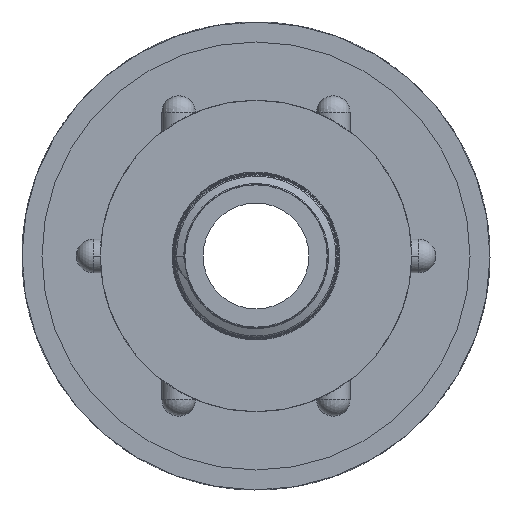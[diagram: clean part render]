
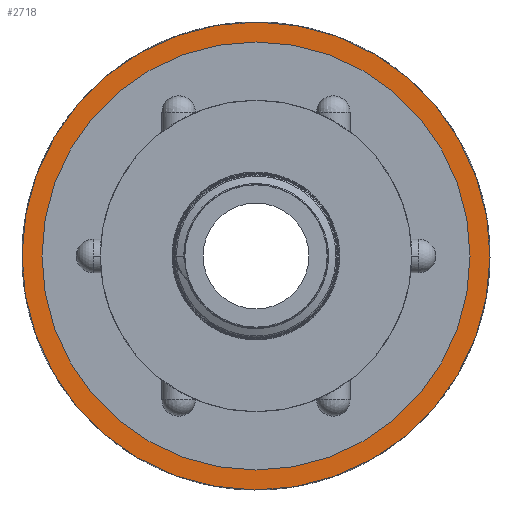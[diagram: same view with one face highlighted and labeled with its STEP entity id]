
A CAD part, left-side view. The second image highlights one B-rep face of the part: STEP entity #2718.
In plain terms, the highlighted planar face has unit normal (-1, 0, 0).
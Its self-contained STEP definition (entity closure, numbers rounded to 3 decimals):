
#722 = CARTESIAN_POINT ( 'NONE',  ( 0., 0., -25. ) ) ;
#723 = CARTESIAN_POINT ( 'NONE',  ( 0., 0., 25. ) ) ;
#732 = CARTESIAN_POINT ( 'NONE',  ( 0., 0., 29.3 ) ) ;
#733 = CARTESIAN_POINT ( 'NONE',  ( 0., 0., -29.3 ) ) ;
#1876 = CIRCLE ( 'NONE', #1877, 29.3 ) ;
#1877 = AXIS2_PLACEMENT_3D ( 'NONE', #9298, #9299, #9300 ) ;
#2198 = AXIS2_PLACEMENT_3D ( 'NONE', #10810, #10822, #10823 ) ;
#2482 = EDGE_CURVE ( 'NONE', #8129, #8128, #1876, .T. ) ;
#2718 = ADVANCED_FACE ( 'NONE', ( #10818, #10819 ), #10820, .F. ) ;
#4043 = ORIENTED_EDGE ( 'NONE', *, *, #6807, .F. ) ;
#4044 = ORIENTED_EDGE ( 'NONE', *, *, #6785, .F. ) ;
#4045 = ORIENTED_EDGE ( 'NONE', *, *, #6733, .T. ) ;
#4046 = ORIENTED_EDGE ( 'NONE', *, *, #2482, .T. ) ;
#6733 = EDGE_CURVE ( 'NONE', #8128, #8129, #20503, .T. ) ;
#6785 = EDGE_CURVE ( 'NONE', #8118, #8119, #20544, .T. ) ;
#6807 = EDGE_CURVE ( 'NONE', #8119, #8118, #20553, .T. ) ;
#7961 = EDGE_LOOP ( 'NONE', ( #4045, #4046 ) ) ;
#7966 = EDGE_LOOP ( 'NONE', ( #4043, #4044 ) ) ;
#8118 = VERTEX_POINT ( 'NONE', #722 ) ;
#8119 = VERTEX_POINT ( 'NONE', #723 ) ;
#8128 = VERTEX_POINT ( 'NONE', #732 ) ;
#8129 = VERTEX_POINT ( 'NONE', #733 ) ;
#9298 = CARTESIAN_POINT ( 'NONE',  ( 0., 0., 0. ) ) ;
#9299 = DIRECTION ( 'NONE',  ( -1., 0., 0. ) ) ;
#9300 = DIRECTION ( 'NONE',  ( 0., 0., 1. ) ) ;
#10810 = CARTESIAN_POINT ( 'NONE',  ( 0., 0., -25. ) ) ;
#10818 = FACE_BOUND ( 'NONE', #7966, .T. ) ;
#10819 = FACE_OUTER_BOUND ( 'NONE', #7961, .T. ) ;
#10820 = PLANE ( 'NONE',  #2198 ) ;
#10822 = DIRECTION ( 'NONE',  ( 1., 0., 0. ) ) ;
#10823 = DIRECTION ( 'NONE',  ( 0., 0., -1. ) ) ;
#20503 = CIRCLE ( 'NONE', #20505, 29.3 ) ;
#20505 = AXIS2_PLACEMENT_3D ( 'NONE', #26312, #26313, #26314 ) ;
#20544 = CIRCLE ( 'NONE', #20545, 25. ) ;
#20545 = AXIS2_PLACEMENT_3D ( 'NONE', #26765, #26766, #26767 ) ;
#20553 = CIRCLE ( 'NONE', #20554, 25. ) ;
#20554 = AXIS2_PLACEMENT_3D ( 'NONE', #26963, #26964, #26965 ) ;
#26312 = CARTESIAN_POINT ( 'NONE',  ( 0., 0., 0. ) ) ;
#26313 = DIRECTION ( 'NONE',  ( -1., 0., 0. ) ) ;
#26314 = DIRECTION ( 'NONE',  ( 0., 0., 1. ) ) ;
#26765 = CARTESIAN_POINT ( 'NONE',  ( 0., 0., 0. ) ) ;
#26766 = DIRECTION ( 'NONE',  ( -1., 0., 0. ) ) ;
#26767 = DIRECTION ( 'NONE',  ( 0., 0., 1. ) ) ;
#26963 = CARTESIAN_POINT ( 'NONE',  ( 0., 0., 0. ) ) ;
#26964 = DIRECTION ( 'NONE',  ( -1., 0., 0. ) ) ;
#26965 = DIRECTION ( 'NONE',  ( 0., 0., 1. ) ) ;
